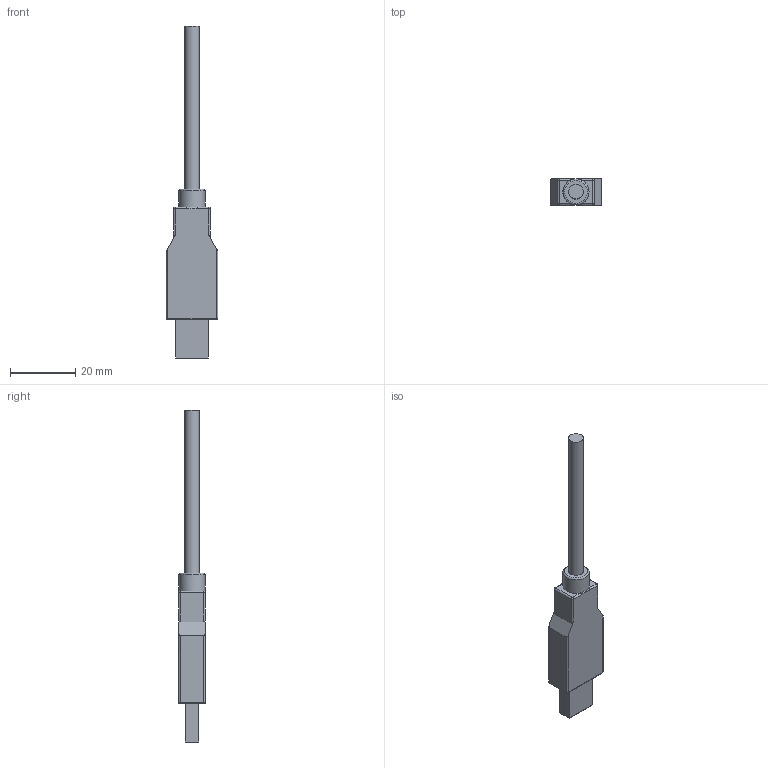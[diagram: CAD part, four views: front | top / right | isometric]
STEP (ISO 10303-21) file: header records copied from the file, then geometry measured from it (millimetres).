
FILE_DESCRIPTION(('FreeCAD Model'),'2;1');
FILE_NAME('Open CASCADE Shape Model','2026-06-08T12:25:16',(''),(''), 'Open CASCADE STEP processor 7.8','FreeCAD','Unknown');
FILE_SCHEMA(('AUTOMOTIVE_DESIGN { 1 0 10303 214 1 1 1 1 }'));
Length unit declared in the file: millimetre
Products named in the file (1): USB2-SCRAMAM-XXXX_P2
Bounding box: 15.8 x 8.2 x 101.75 mm (x, y, z)
Volume: 5373.4 mm3; surface area: 3180.4 mm2
Topology: 1 solids, 1 shells, 56 faces, 136 edges, 81 vertices
Faces by surface type: plane 25, cylinder 20, revolution 4, sphere 4, bspline 2, torus 1
Full cylindrical faces by diameter (mm): 4.5 x1, 8 x1
Entity records: 1776 total; most frequent: CARTESIAN_POINT 456, DIRECTION 278, ORIENTED_EDGE 264, EDGE_CURVE 132, AXIS2_PLACEMENT_3D 97, VERTEX_POINT 81, LINE 80, VECTOR 80
